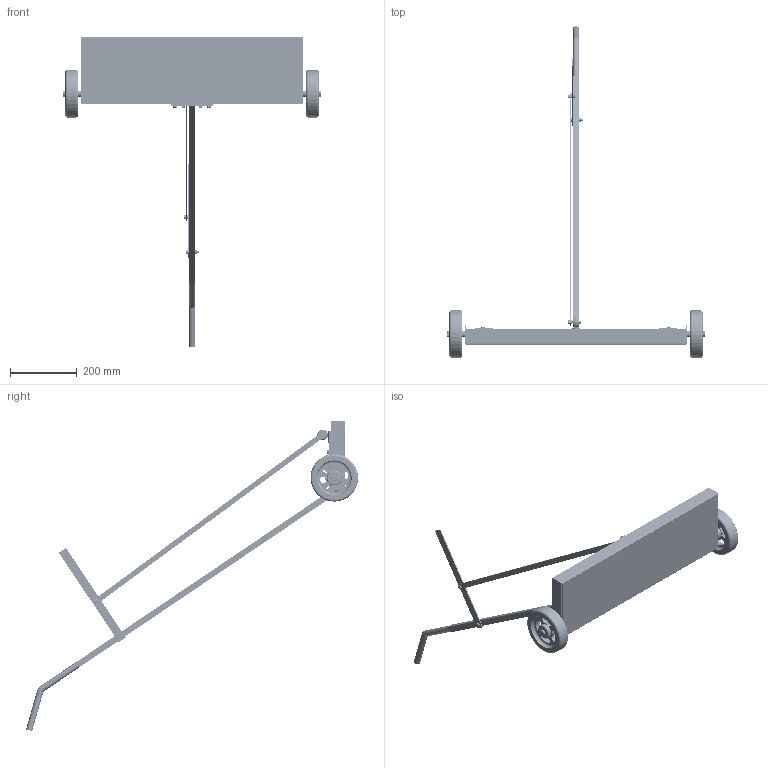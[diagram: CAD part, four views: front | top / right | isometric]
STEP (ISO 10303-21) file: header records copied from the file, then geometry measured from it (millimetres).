
FILE_DESCRIPTION (( 'STEP AP203' ), '1' );
FILE_NAME ('IS2400.STEP', '2018-08-20T19:31:33', ( '' ), ( '' ), 'SwSTEP 2.0', 'SolidWorks 2015', '' );
FILE_SCHEMA (( 'CONFIG_CONTROL_DESIGN' ));
Products named in the file (1): IS2400
Bounding box: 774.48 x 998.4 x 933.31 mm (x, y, z)
Volume: 2168210.4 mm3; surface area: 1394564.9 mm2
Topology: 87 solids, 87 shells, 4828 faces, 10916 edges, 6304 vertices
Faces by surface type: cylinder 2104, cone 1978, plane 616, torus 112, sphere 18
Entity records: 178585 total; most frequent: CARTESIAN_POINT 74673, ORIENTED_EDGE 21820, DIRECTION 21194, EDGE_CURVE 10910, AXIS2_PLACEMENT_3D 8371, VERTEX_POINT 6300, EDGE_LOOP 5104, ADVANCED_FACE 4828
